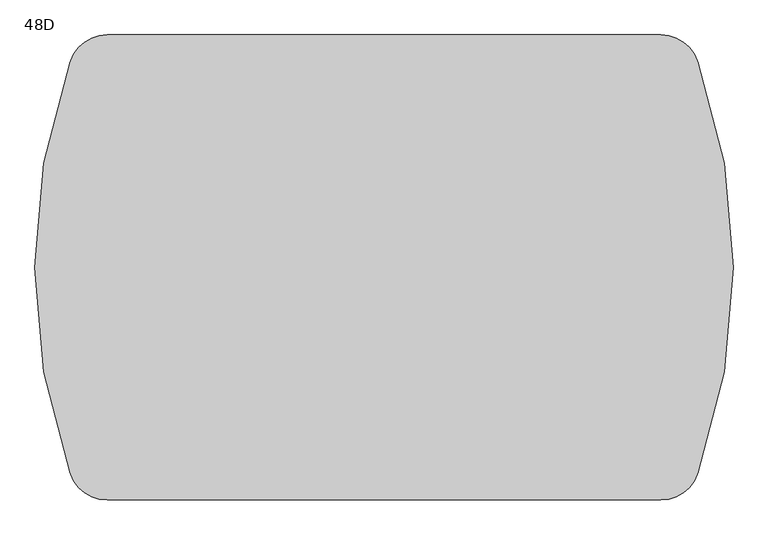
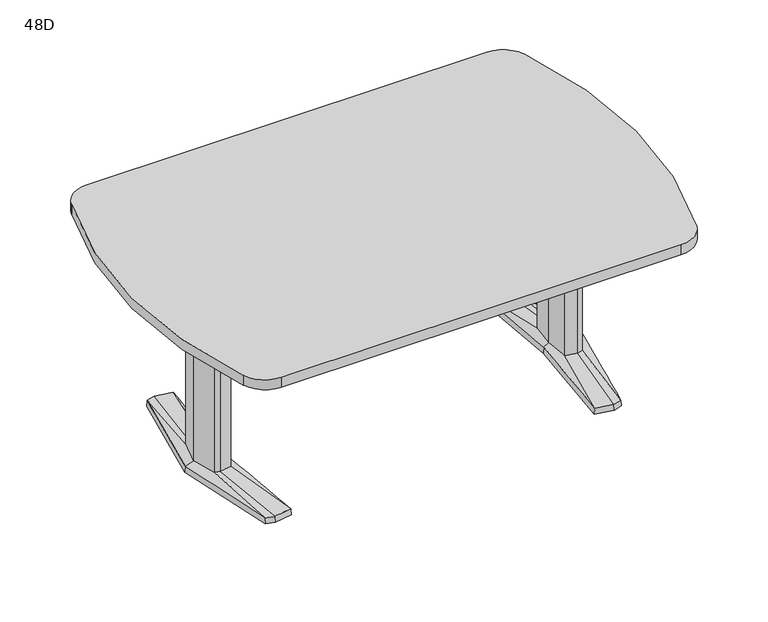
"""IFC4 building model written with IfcOpenShell, lengths in millimetres: furniture geometry, Coalesse_AM_Table_Conference_ETable2_SoftRadiused_72in_AluminiumBase : 48D."""

from ifc_helpers import new_model, si_unit, point, frame, frame_2d, origin, place, context, project, spatial, polyline, circle_curve, trimmed, segment, composite_curve, outline, extrude, source, transform, mapped, element, save
from ifc_brep_helpers import plane_surface, spline_surface, advanced_brep


def furniture_48d_aa6851dc(model_context):
    return source(origin(), model_context, "Body", "SolidModel", [
        advanced_brep(
        [(614.8503471, -379.3768856, 25.4), (644.5756636, -371.5332654, 25.4), (668.2327243, -89.293702, 36.5125), (648.9795254, -94.605478, 36.5125), (606.0521001, -87.0529327, 36.5125), (551.7612538, -368.5071562, 25.4), (597.9364207, 0.0, 36.5125), (579.8389754, 0.3970149, 25.4), (606.0521001, 87.0529327, 36.5125), (551.7615002, 368.5172593, 25.4), (648.9795254, 94.605478, 36.5125), (614.8502233, 379.3769183, 25.4), (668.2327243, 89.293702, 36.5125), (644.7535458, 371.4863276, 25.4), (692.1595251, 0.0, 36.5125), (721.4851663, 0.0003516, 25.4), (578.2468742, 0.3968871, 3.175), (550.06875, 369.8367279, 3.175), (614.9213004, 381.0, 3.175), (646.1093245, 372.7704151, 3.175), (723.10625, 0.0, 3.175), (645.9309817, -372.8174744, 3.175), (614.9213004, -381.0, 3.175), (550.06875, -369.8264415, 3.175), (649.5979264, 107.6121478, 3.175), (594.3065451, 97.8843184, 3.175), (585.1810887, 0.0, 3.175), (594.3065451, -97.8843184, 3.175), (649.5979264, -107.6121478, 3.175), (678.6183473, -99.6056872, 3.175), (705.3083085, 0.0, 3.175), (678.6183473, 99.6056872, 3.175), (613.4286812, 346.9152841, 3.175), (557.7811371, 337.3364985, 3.175), (560.1889918, 324.8641942, 3.175), (612.8600644, 333.9306305, 3.175), (648.6725609, 324.4807859, 3.175), (647.5544526, 337.9105158, 3.175), (613.4286812, -346.9152841, 3.175), (647.5544526, -337.9105158, 3.175), (648.6725609, -324.4807859, 3.175), (612.8600644, -333.9306305, 3.175), (560.1889918, -324.8641942, 3.175), (557.7811371, -337.3364985, 3.175), (649.5979264, 107.6121478, 0.0), (678.6183473, 99.6056872, 0.0), (705.3083085, 0.0, 0.0), (678.6183473, -99.6056872, 0.0), (649.5979264, -107.6121478, 0.0), (594.3065451, -97.8843184, 0.0), (585.1810887, 0.0, 0.0), (594.3065451, 97.8843184, 0.0), (613.4286812, 346.9152841, 0.0), (647.5544526, 337.9105158, 0.0), (648.6725609, 324.4807859, 0.0), (612.8600644, 333.9306305, 0.0), (560.1889918, 324.8641942, 0.0), (557.7811371, 337.3364985, 0.0), (613.4286812, -346.9152841, 0.0), (557.7811371, -337.3364985, 0.0), (560.1889918, -324.8641942, 0.0), (612.8600644, -333.9306305, 0.0), (648.6725609, -324.4807859, 0.0), (647.5544526, -337.9105158, 0.0), (668.2327243, 89.293702, 698.5), (648.9795254, 94.605478, 698.5), (606.0521001, 87.0529327, 698.5), (597.9364207, 0.0, 698.5), (606.0521001, -87.0529327, 698.5), (648.9795254, -94.605478, 698.5), (668.2327243, -89.293702, 698.5), (692.1595251, 0.0, 698.5)],
        [
            (0, 1),
            (1, 2),
            (2, 3),
            (3, 0),
            (3, 4),
            (4, 5),
            (5, 0),
            (4, 6),
            (6, 7),
            (7, 5),
            (6, 8),
            (8, 9),
            (9, 7),
            (8, 10),
            (10, 11),
            (11, 9),
            (10, 12),
            (12, 13),
            (13, 11),
            (12, 14),
            (14, 15),
            (15, 13),
            (1, 15),
            (14, 2),
            (16, 17),
            (17, 18),
            (18, 19),
            (19, 20),
            (20, 21),
            (21, 22),
            (22, 23),
            (23, 16),
            (24, 25),
            (25, 26),
            (26, 27),
            (27, 28),
            (28, 29),
            (29, 30),
            (30, 31),
            (31, 24),
            (32, 33),
            (33, 34),
            (34, 35),
            (35, 36),
            (36, 37),
            (37, 32),
            (38, 39),
            (39, 40),
            (40, 41),
            (41, 42),
            (42, 43),
            (43, 38),
            (16, 7),
            (9, 17),
            (11, 18),
            (13, 19),
            (15, 20),
            (1, 21),
            (0, 22),
            (5, 23),
            (44, 45),
            (45, 46),
            (46, 47),
            (47, 48),
            (48, 49),
            (49, 50),
            (50, 51),
            (51, 44),
            (52, 53),
            (53, 54),
            (54, 55),
            (55, 56),
            (56, 57),
            (57, 52),
            (58, 59),
            (59, 60),
            (60, 61),
            (61, 62),
            (62, 63),
            (63, 58),
            (44, 24),
            (31, 45),
            (30, 46),
            (29, 47),
            (28, 48),
            (27, 49),
            (26, 50),
            (25, 51),
            (52, 32),
            (37, 53),
            (36, 54),
            (35, 55),
            (34, 56),
            (33, 57),
            (58, 38),
            (43, 59),
            (42, 60),
            (41, 61),
            (40, 62),
            (39, 63),
            (64, 65),
            (65, 66),
            (66, 67),
            (67, 68),
            (68, 69),
            (69, 70),
            (70, 71),
            (71, 64),
            (71, 14),
            (12, 64),
            (70, 2),
            (69, 3),
            (68, 4),
            (67, 6),
            (66, 8),
            (65, 10),
        ],
        [
            spline_surface(1, 1, [[(644.5756636, -371.5332654, 25.4), (614.8503471, -379.3768856, 25.4)], [(668.2327243, -89.293702, 36.5125), (648.9795254, -94.605478, 36.5125)]], [2, 2], [2, 2], [0.0, 1.0], [0.0, 1.0]),
            spline_surface(1, 1, [[(614.8503471, -379.3768856, 25.4), (551.7612538, -368.5071562, 25.4)], [(648.9795254, -94.605478, 36.5125), (606.0521001, -87.0529327, 36.5125)]], [2, 2], [2, 2], [0.0, 1.0], [0.0, 1.0]),
            spline_surface(1, 1, [[(551.7612538, -368.5071562, 25.4), (579.8389754, 0.3970149, 25.4)], [(606.0521001, -87.0529327, 36.5125), (597.9364207, 0.0, 36.5125)]], [2, 2], [2, 2], [0.0, 1.0], [0.0, 1.0]),
            spline_surface(1, 1, [[(579.8389754, 0.3970149, 25.4), (551.7615002, 368.5172593, 25.4)], [(597.9364207, 0.0, 36.5125), (606.0521001, 87.0529327, 36.5125)]], [2, 2], [2, 2], [0.0, 1.0], [0.0, 1.0]),
            spline_surface(1, 1, [[(551.7615002, 368.5172593, 25.4), (614.8502233, 379.3769183, 25.4)], [(606.0521001, 87.0529327, 36.5125), (648.9795254, 94.605478, 36.5125)]], [2, 2], [2, 2], [0.0, 1.0], [0.0, 1.0]),
            spline_surface(1, 1, [[(614.8502233, 379.3769183, 25.4), (644.7535458, 371.4863276, 25.4)], [(648.9795254, 94.605478, 36.5125), (668.2327243, 89.293702, 36.5125)]], [2, 2], [2, 2], [0.0, 1.0], [0.0, 1.0]),
            spline_surface(1, 1, [[(644.7535458, 371.4863276, 25.4), (721.4851663, 0.0003516, 25.4)], [(668.2327243, 89.293702, 36.5125), (692.1595251, 0.0, 36.5125)]], [2, 2], [2, 2], [0.0, 1.0], [0.0, 1.0]),
            spline_surface(1, 1, [[(721.4851663, 0.0003516, 25.4), (644.5756636, -371.5332654, 25.4)], [(692.1595251, 0.0, 36.5125), (668.2327243, -89.293702, 36.5125)]], [2, 2], [2, 2], [0.0, 1.0], [0.0, 1.0]),
            plane_surface(frame((615.4216914, 0.0450143, 3.175), z_axis=(0.0, 0.0, -1.0), x_axis=(-0.9669048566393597, -0.2551372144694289, 0.0))),
            plane_surface(frame((564.1578121, 185.1168075, 3.175), z_axis=(-0.9945699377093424, -0.07585840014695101, 0.0712470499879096), x_axis=(-0.07605167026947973, 0.9971038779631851, 0.0))),
            plane_surface(frame((582.4950252, 375.418364, 3.175), z_axis=(-0.1692071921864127, 0.9830019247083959, 0.07124704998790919), x_axis=(0.985506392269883, 0.16963829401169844, 0.0))),
            plane_surface(frame((630.5153124, 376.8852076, 3.175), z_axis=(0.2544888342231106, 0.9644476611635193, 0.07124704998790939), x_axis=(0.9669048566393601, -0.25513721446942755, 0.0))),
            plane_surface(frame((684.6077872, 186.3852076, 3.175), z_axis=(0.9768383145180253, 0.2017690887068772, 0.07124704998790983), x_axis=(0.20228315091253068, -0.9793270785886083, 0.0))),
            plane_surface(frame((684.5186158, -186.4087372, 3.175), z_axis=(0.9767507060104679, -0.20219276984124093, 0.07124704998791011), x_axis=(-0.2027079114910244, -0.9792392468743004, 0.0))),
            plane_surface(frame((630.426141, -376.9087372, 3.175), z_axis=(0.2544888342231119, -0.9644476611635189, 0.0712470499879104), x_axis=(-0.9669048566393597, -0.2551372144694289, 0.0))),
            plane_surface(frame((582.4950252, -375.4132207, 3.175), z_axis=(-0.16935861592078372, -0.982975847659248, 0.07124704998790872), x_axis=(-0.9854802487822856, 0.16979010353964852, 0.0))),
            plane_surface(frame((564.1578121, -184.7147772, 3.175), z_axis=(-0.9945820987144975, 0.07569878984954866, 0.07124704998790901), x_axis=(0.07589165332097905, 0.9971160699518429, 0.0))),
            plane_surface(frame((652.3571479, 106.8509046, 0.0), z_axis=(0.0, 0.0, -1.0000000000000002), x_axis=(-0.9639855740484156, 0.26595453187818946, 0.0))),
            plane_surface(frame((649.5979264, 107.6121478, 3.175), z_axis=(0.26595453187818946, 0.9639855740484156, 0.0), x_axis=(0.0, 0.0, -1.0))),
            plane_surface(frame((678.6183473, 99.6056872, 3.175), z_axis=(0.9659241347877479, 0.2588253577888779, 0.0), x_axis=(0.0, 0.0, -1.0))),
            plane_surface(frame((705.3083085, 0.0, 3.175), z_axis=(0.9659241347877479, -0.2588253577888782, 0.0), x_axis=(0.0, 0.0, -1.0))),
            plane_surface(frame((678.6183473, -99.6056872, 3.175), z_axis=(0.26595453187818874, -0.9639855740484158, 0.0), x_axis=(0.0, 0.0, -1.0))),
            plane_surface(frame((649.5979264, -107.6121478, 3.175), z_axis=(-0.17327617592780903, -0.9848732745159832, 0.0), x_axis=(0.0, 0.0, -1.0))),
            plane_surface(frame((594.3065451, -97.8843184, 3.175), z_axis=(-0.9956824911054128, -0.0928244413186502, 0.0), x_axis=(0.0, 0.0, -1.0))),
            plane_surface(frame((585.1810887, 0.0, 3.175), z_axis=(-0.9956824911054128, 0.09282444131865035, 0.0), x_axis=(0.0, 0.0, -1.0))),
            plane_surface(frame((594.3065451, 97.8843184, 3.175), z_axis=(-0.17327617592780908, 0.984873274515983, 0.0), x_axis=(0.0, 0.0, -1.0))),
            plane_surface(frame((613.4286812, 346.9152841, 3.175), z_axis=(0.25513721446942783, 0.9669048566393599, 0.0), x_axis=(0.0, 0.0, -1.0))),
            plane_surface(frame((647.5544526, 337.9105158, 3.175), z_axis=(0.9965521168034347, 0.0829691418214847, 0.0), x_axis=(0.0, 0.0, -1.0))),
            plane_surface(frame((648.6725609, 324.4807859, 3.175), z_axis=(-0.25513721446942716, -0.9669048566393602, 0.0), x_axis=(0.0, 0.0, -1.0))),
            plane_surface(frame((612.8600644, 333.9306305, 3.175), z_axis=(0.16963829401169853, -0.985506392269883, 0.0), x_axis=(0.0, 0.0, -1.0))),
            plane_surface(frame((560.1889918, 324.8641942, 3.175), z_axis=(-0.9818699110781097, -0.18955600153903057, 0.0), x_axis=(0.0, 0.0, -1.0))),
            plane_surface(frame((557.7811371, 337.3364985, 3.175), z_axis=(-0.16963829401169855, 0.9855063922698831, 0.0), x_axis=(0.0, 0.0, -1.0))),
            plane_surface(frame((613.4286812, -346.9152841, 3.175), z_axis=(-0.1696382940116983, -0.9855063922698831, 0.0), x_axis=(0.0, 0.0, -1.0))),
            plane_surface(frame((557.7811371, -337.3364985, 3.175), z_axis=(-0.9818699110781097, 0.18955600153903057, 0.0), x_axis=(0.0, 0.0, -1.0))),
            plane_surface(frame((560.1889918, -324.8641942, 3.175), z_axis=(0.16963829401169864, 0.985506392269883, 0.0), x_axis=(0.0, 0.0, -1.0))),
            plane_surface(frame((612.8600644, -333.9306305, 3.175), z_axis=(-0.2551372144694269, 0.9669048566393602, 0.0), x_axis=(0.0, 0.0, -1.0))),
            plane_surface(frame((648.6725609, -324.4807859, 3.175), z_axis=(0.9965521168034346, -0.0829691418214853, 0.0), x_axis=(0.0, 0.0, -1.0))),
            plane_surface(frame((647.5544526, -337.9105158, 3.175), z_axis=(0.2551372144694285, -0.9669048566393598, 0.0), x_axis=(0.0, 0.0, -1.0))),
            plane_surface(frame((692.1595251, 0.0, 698.5), z_axis=(0.0, 0.0, 1.0), x_axis=(0.25882535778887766, -0.965924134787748, 0.0))),
            plane_surface(frame((668.2327243, 89.293702, 698.5), z_axis=(0.965924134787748, 0.25882535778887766, 0.0), x_axis=(0.0, 0.0, -1.0))),
            plane_surface(frame((692.1595251, 0.0, 698.5), z_axis=(0.965924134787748, -0.2588253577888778, 0.0), x_axis=(0.0, 0.0, -1.0))),
            plane_surface(frame((668.2327243, -89.293702, 698.5), z_axis=(0.2659545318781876, -0.963985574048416, 0.0), x_axis=(0.0, 0.0, -1.0))),
            plane_surface(frame((648.9795254, -94.605478, 698.5), z_axis=(-0.1732761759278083, -0.9848732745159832, 0.0), x_axis=(0.0, 0.0, -1.0))),
            plane_surface(frame((606.0521001, -87.0529327, 698.5), z_axis=(-0.9956824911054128, -0.0928244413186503, 0.0), x_axis=(0.0, 0.0, -1.0))),
            plane_surface(frame((597.9364207, 0.0, 698.5), z_axis=(-0.9956824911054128, 0.09282444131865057, 0.0), x_axis=(0.0, 0.0, -1.0))),
            plane_surface(frame((606.0521001, 87.0529327, 698.5), z_axis=(-0.17327617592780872, 0.9848732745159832, 0.0), x_axis=(0.0, 0.0, -1.0))),
            plane_surface(frame((648.9795254, 94.605478, 698.5), z_axis=(0.26595453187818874, 0.9639855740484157, 0.0), x_axis=(0.0, 0.0, -1.0))),
        ],
        [
            (0, [[1, 2, 3, 4]]),
            (1, [[5, 6, 7, -4]]),
            (2, [[8, 9, 10, -6]]),
            (3, [[11, 12, 13, -9]]),
            (4, [[14, 15, 16, -12]]),
            (5, [[17, 18, 19, -15]]),
            (6, [[20, 21, 22, -18]]),
            (7, [[23, -21, 24, -2]]),
            (8, [[25, 26, 27, 28, 29, 30, 31, 32], [33, 34, 35, 36, 37, 38, 39, 40], [41, 42, 43, 44, 45, 46], [47, 48, 49, 50, 51, 52]]),
            (9, [[53, -13, 54, -25]]),
            (10, [[-54, -16, 55, -26]]),
            (11, [[-55, -19, 56, -27]]),
            (12, [[-56, -22, 57, -28]]),
            (13, [[-57, -23, 58, -29]]),
            (14, [[-58, -1, 59, -30]]),
            (15, [[-59, -7, 60, -31]]),
            (16, [[-60, -10, -53, -32]]),
            (17, [[61, 62, 63, 64, 65, 66, 67, 68]]),
            (17, [[69, 70, 71, 72, 73, 74]]),
            (17, [[75, 76, 77, 78, 79, 80]]),
            (18, [[81, -40, 82, -61]]),
            (19, [[-82, -39, 83, -62]]),
            (20, [[-83, -38, 84, -63]]),
            (21, [[-84, -37, 85, -64]]),
            (22, [[-85, -36, 86, -65]]),
            (23, [[-86, -35, 87, -66]]),
            (24, [[-87, -34, 88, -67]]),
            (25, [[-88, -33, -81, -68]]),
            (26, [[89, -46, 90, -69]]),
            (27, [[-90, -45, 91, -70]]),
            (28, [[-91, -44, 92, -71]]),
            (29, [[-92, -43, 93, -72]]),
            (30, [[-93, -42, 94, -73]]),
            (31, [[-94, -41, -89, -74]]),
            (32, [[95, -52, 96, -75]]),
            (33, [[-96, -51, 97, -76]]),
            (34, [[-97, -50, 98, -77]]),
            (35, [[-98, -49, 99, -78]]),
            (36, [[-99, -48, 100, -79]]),
            (37, [[-100, -47, -95, -80]]),
            (38, [[101, 102, 103, 104, 105, 106, 107, 108]]),
            (39, [[109, -20, 110, -108]]),
            (40, [[111, -24, -109, -107]]),
            (41, [[112, -3, -111, -106]]),
            (42, [[113, -5, -112, -105]]),
            (43, [[114, -8, -113, -104]]),
            (44, [[115, -11, -114, -103]]),
            (45, [[116, -14, -115, -102]]),
            (46, [[-110, -17, -116, -101]]),
        ],
    ),
        advanced_brep(
        [(-614.8503471, -379.3768856, 25.4), (-648.9795254, -94.605478, 36.5125), (-668.2327243, -89.293702, 36.5125), (-644.5756636, -371.5332654, 25.4), (-551.7612538, -368.5071562, 25.4), (-606.0521001, -87.0529327, 36.5125), (-579.8389754, 0.3970149, 25.4), (-597.9364207, 0.0, 36.5125), (-551.7615002, 368.5172593, 25.4), (-606.0521001, 87.0529327, 36.5125), (-614.8502233, 379.3769183, 25.4), (-648.9795254, 94.605478, 36.5125), (-644.7535458, 371.4863276, 25.4), (-668.2327243, 89.293702, 36.5125), (-721.4851663, 0.0003516, 25.4), (-692.1595251, 0.0, 36.5125), (-578.2468742, 0.3968871, 3.175), (-550.06875, -369.8264415, 3.175), (-614.9213004, -381.0, 3.175), (-645.9309817, -372.8174744, 3.175), (-723.10625, 0.0, 3.175), (-646.1093245, 372.7704151, 3.175), (-614.9213004, 381.0, 3.175), (-550.06875, 369.8367279, 3.175), (-649.5979264, 107.6121478, 3.175), (-678.6183473, 99.6056872, 3.175), (-705.3083085, 0.0, 3.175), (-678.6183473, -99.6056872, 3.175), (-649.5979264, -107.6121478, 3.175), (-594.3065451, -97.8843184, 3.175), (-585.1810887, 0.0, 3.175), (-594.3065451, 97.8843184, 3.175), (-613.4286812, 346.9152841, 3.175), (-647.5544526, 337.9105158, 3.175), (-648.6725609, 324.4807859, 3.175), (-612.8600644, 333.9306305, 3.175), (-560.1889918, 324.8641942, 3.175), (-557.7811371, 337.3364985, 3.175), (-613.4286812, -346.9152841, 3.175), (-557.7811371, -337.3364985, 3.175), (-560.1889918, -324.8641942, 3.175), (-612.8600644, -333.9306305, 3.175), (-648.6725609, -324.4807859, 3.175), (-647.5544526, -337.9105158, 3.175), (-649.5979264, 107.6121478, 0.0), (-594.3065451, 97.8843184, 0.0), (-585.1810887, 0.0, 0.0), (-594.3065451, -97.8843184, 0.0), (-649.5979264, -107.6121478, 0.0), (-678.6183473, -99.6056872, 0.0), (-705.3083085, 0.0, 0.0), (-678.6183473, 99.6056872, 0.0), (-613.4286812, 346.9152841, 0.0), (-557.7811371, 337.3364985, 0.0), (-560.1889918, 324.8641942, 0.0), (-612.8600644, 333.9306305, 0.0), (-648.6725609, 324.4807859, 0.0), (-647.5544526, 337.9105158, 0.0), (-613.4286812, -346.9152841, 0.0), (-647.5544526, -337.9105158, 0.0), (-648.6725609, -324.4807859, 0.0), (-612.8600644, -333.9306305, 0.0), (-560.1889918, -324.8641942, 0.0), (-557.7811371, -337.3364985, 0.0), (-668.2327243, 89.293702, 698.5), (-692.1595251, 0.0, 698.5), (-668.2327243, -89.293702, 698.5), (-648.9795254, -94.605478, 698.5), (-606.0521001, -87.0529327, 698.5), (-597.9364207, 0.0, 698.5), (-606.0521001, 87.0529327, 698.5), (-648.9795254, 94.605478, 698.5)],
        [
            (0, 1),
            (1, 2),
            (2, 3),
            (3, 0),
            (0, 4),
            (4, 5),
            (5, 1),
            (4, 6),
            (6, 7),
            (7, 5),
            (6, 8),
            (8, 9),
            (9, 7),
            (8, 10),
            (10, 11),
            (11, 9),
            (10, 12),
            (12, 13),
            (13, 11),
            (12, 14),
            (14, 15),
            (15, 13),
            (2, 15),
            (14, 3),
            (16, 17),
            (17, 18),
            (18, 19),
            (19, 20),
            (20, 21),
            (21, 22),
            (22, 23),
            (23, 16),
            (24, 25),
            (25, 26),
            (26, 27),
            (27, 28),
            (28, 29),
            (29, 30),
            (30, 31),
            (31, 24),
            (32, 33),
            (33, 34),
            (34, 35),
            (35, 36),
            (36, 37),
            (37, 32),
            (38, 39),
            (39, 40),
            (40, 41),
            (41, 42),
            (42, 43),
            (43, 38),
            (23, 8),
            (6, 16),
            (22, 10),
            (21, 12),
            (20, 14),
            (19, 3),
            (18, 0),
            (17, 4),
            (44, 45),
            (45, 46),
            (46, 47),
            (47, 48),
            (48, 49),
            (49, 50),
            (50, 51),
            (51, 44),
            (52, 53),
            (53, 54),
            (54, 55),
            (55, 56),
            (56, 57),
            (57, 52),
            (58, 59),
            (59, 60),
            (60, 61),
            (61, 62),
            (62, 63),
            (63, 58),
            (51, 25),
            (24, 44),
            (50, 26),
            (49, 27),
            (48, 28),
            (47, 29),
            (46, 30),
            (45, 31),
            (57, 33),
            (32, 52),
            (56, 34),
            (55, 35),
            (54, 36),
            (53, 37),
            (63, 39),
            (38, 58),
            (62, 40),
            (61, 41),
            (60, 42),
            (59, 43),
            (64, 65),
            (65, 66),
            (66, 67),
            (67, 68),
            (68, 69),
            (69, 70),
            (70, 71),
            (71, 64),
            (64, 13),
            (15, 65),
            (2, 66),
            (1, 67),
            (5, 68),
            (7, 69),
            (9, 70),
            (11, 71),
        ],
        [
            spline_surface(1, 1, [[(-644.5756636, -371.5332654, 25.4), (-668.2327243, -89.293702, 36.5125)], [(-614.8503471, -379.3768856, 25.4), (-648.9795254, -94.605478, 36.5125)]], [2, 2], [2, 2], [0.0, 1.0], [0.0, 1.0]),
            spline_surface(1, 1, [[(-614.8503471, -379.3768856, 25.4), (-648.9795254, -94.605478, 36.5125)], [(-551.7612538, -368.5071562, 25.4), (-606.0521001, -87.0529327, 36.5125)]], [2, 2], [2, 2], [0.0, 1.0], [0.0, 1.0]),
            spline_surface(1, 1, [[(-551.7612538, -368.5071562, 25.4), (-606.0521001, -87.0529327, 36.5125)], [(-579.8389754, 0.3970149, 25.4), (-597.9364207, 0.0, 36.5125)]], [2, 2], [2, 2], [0.0, 1.0], [0.0, 1.0]),
            spline_surface(1, 1, [[(-579.8389754, 0.3970149, 25.4), (-597.9364207, 0.0, 36.5125)], [(-551.7615002, 368.5172593, 25.4), (-606.0521001, 87.0529327, 36.5125)]], [2, 2], [2, 2], [0.0, 1.0], [0.0, 1.0]),
            spline_surface(1, 1, [[(-551.7615002, 368.5172593, 25.4), (-606.0521001, 87.0529327, 36.5125)], [(-614.8502233, 379.3769183, 25.4), (-648.9795254, 94.605478, 36.5125)]], [2, 2], [2, 2], [0.0, 1.0], [0.0, 1.0]),
            spline_surface(1, 1, [[(-614.8502233, 379.3769183, 25.4), (-648.9795254, 94.605478, 36.5125)], [(-644.7535458, 371.4863276, 25.4), (-668.2327243, 89.293702, 36.5125)]], [2, 2], [2, 2], [0.0, 1.0], [0.0, 1.0]),
            spline_surface(1, 1, [[(-644.7535458, 371.4863276, 25.4), (-668.2327243, 89.293702, 36.5125)], [(-721.4851663, 0.0003516, 25.4), (-692.1595251, 0.0, 36.5125)]], [2, 2], [2, 2], [0.0, 1.0], [0.0, 1.0]),
            spline_surface(1, 1, [[(-721.4851663, 0.0003516, 25.4), (-692.1595251, 0.0, 36.5125)], [(-644.5756636, -371.5332654, 25.4), (-668.2327243, -89.293702, 36.5125)]], [2, 2], [2, 2], [0.0, 1.0], [0.0, 1.0]),
            plane_surface(frame((-615.4216914, 0.0450143, 3.175), z_axis=(0.0, 0.0, -1.0), x_axis=(0.9669048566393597, -0.2551372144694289, 0.0))),
            plane_surface(frame((-564.1578121, 185.1168075, 3.175), z_axis=(0.9945699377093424, -0.07585840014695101, 0.0712470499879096), x_axis=(0.07605167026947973, 0.9971038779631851, 0.0))),
            plane_surface(frame((-582.4950252, 375.418364, 3.175), z_axis=(0.1692071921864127, 0.9830019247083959, 0.07124704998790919), x_axis=(-0.985506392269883, 0.16963829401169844, 0.0))),
            plane_surface(frame((-630.5153124, 376.8852076, 3.175), z_axis=(-0.2544888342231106, 0.9644476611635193, 0.07124704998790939), x_axis=(-0.9669048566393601, -0.25513721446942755, 0.0))),
            plane_surface(frame((-684.6077872, 186.3852076, 3.175), z_axis=(-0.9768383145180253, 0.2017690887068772, 0.07124704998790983), x_axis=(-0.20228315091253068, -0.9793270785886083, 0.0))),
            plane_surface(frame((-684.5186158, -186.4087372, 3.175), z_axis=(-0.9767507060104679, -0.20219276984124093, 0.07124704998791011), x_axis=(0.2027079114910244, -0.9792392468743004, 0.0))),
            plane_surface(frame((-630.426141, -376.9087372, 3.175), z_axis=(-0.2544888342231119, -0.9644476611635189, 0.0712470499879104), x_axis=(0.9669048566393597, -0.2551372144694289, 0.0))),
            plane_surface(frame((-582.4950252, -375.4132207, 3.175), z_axis=(0.16935861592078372, -0.982975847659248, 0.07124704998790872), x_axis=(0.9854802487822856, 0.16979010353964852, 0.0))),
            plane_surface(frame((-564.1578121, -184.7147772, 3.175), z_axis=(0.9945820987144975, 0.07569878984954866, 0.07124704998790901), x_axis=(-0.07589165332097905, 0.9971160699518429, 0.0))),
            plane_surface(frame((-652.3571479, 106.8509046, 0.0), z_axis=(0.0, 0.0, -1.0000000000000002), x_axis=(0.9639855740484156, 0.26595453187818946, 0.0))),
            plane_surface(frame((-649.5979264, 107.6121478, 3.175), z_axis=(-0.26595453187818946, 0.9639855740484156, 0.0), x_axis=(0.0, 0.0, -1.0))),
            plane_surface(frame((-678.6183473, 99.6056872, 3.175), z_axis=(-0.9659241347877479, 0.2588253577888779, 0.0), x_axis=(0.0, 0.0, -1.0))),
            plane_surface(frame((-705.3083085, 0.0, 3.175), z_axis=(-0.9659241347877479, -0.2588253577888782, 0.0), x_axis=(0.0, 0.0, -1.0))),
            plane_surface(frame((-678.6183473, -99.6056872, 3.175), z_axis=(-0.26595453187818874, -0.9639855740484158, 0.0), x_axis=(0.0, 0.0, -1.0))),
            plane_surface(frame((-649.5979264, -107.6121478, 3.175), z_axis=(0.17327617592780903, -0.9848732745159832, 0.0), x_axis=(0.0, 0.0, -1.0))),
            plane_surface(frame((-594.3065451, -97.8843184, 3.175), z_axis=(0.9956824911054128, -0.0928244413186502, 0.0), x_axis=(0.0, 0.0, -1.0))),
            plane_surface(frame((-585.1810887, 0.0, 3.175), z_axis=(0.9956824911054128, 0.09282444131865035, 0.0), x_axis=(0.0, 0.0, -1.0))),
            plane_surface(frame((-594.3065451, 97.8843184, 3.175), z_axis=(0.17327617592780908, 0.984873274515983, 0.0), x_axis=(0.0, 0.0, -1.0))),
            plane_surface(frame((-613.4286812, 346.9152841, 3.175), z_axis=(-0.25513721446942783, 0.9669048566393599, 0.0), x_axis=(0.0, 0.0, -1.0))),
            plane_surface(frame((-647.5544526, 337.9105158, 3.175), z_axis=(-0.9965521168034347, 0.0829691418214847, 0.0), x_axis=(0.0, 0.0, -1.0))),
            plane_surface(frame((-648.6725609, 324.4807859, 3.175), z_axis=(0.25513721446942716, -0.9669048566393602, 0.0), x_axis=(0.0, 0.0, -1.0))),
            plane_surface(frame((-612.8600644, 333.9306305, 3.175), z_axis=(-0.16963829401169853, -0.985506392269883, 0.0), x_axis=(0.0, 0.0, -1.0))),
            plane_surface(frame((-560.1889918, 324.8641942, 3.175), z_axis=(0.9818699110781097, -0.18955600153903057, 0.0), x_axis=(0.0, 0.0, -1.0))),
            plane_surface(frame((-557.7811371, 337.3364985, 3.175), z_axis=(0.16963829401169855, 0.9855063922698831, 0.0), x_axis=(0.0, 0.0, -1.0))),
            plane_surface(frame((-613.4286812, -346.9152841, 3.175), z_axis=(0.1696382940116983, -0.9855063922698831, 0.0), x_axis=(0.0, 0.0, -1.0))),
            plane_surface(frame((-557.7811371, -337.3364985, 3.175), z_axis=(0.9818699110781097, 0.18955600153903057, 0.0), x_axis=(0.0, 0.0, -1.0))),
            plane_surface(frame((-560.1889918, -324.8641942, 3.175), z_axis=(-0.16963829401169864, 0.985506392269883, 0.0), x_axis=(0.0, 0.0, -1.0))),
            plane_surface(frame((-612.8600644, -333.9306305, 3.175), z_axis=(0.2551372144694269, 0.9669048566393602, 0.0), x_axis=(0.0, 0.0, -1.0))),
            plane_surface(frame((-648.6725609, -324.4807859, 3.175), z_axis=(-0.9965521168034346, -0.0829691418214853, 0.0), x_axis=(0.0, 0.0, -1.0))),
            plane_surface(frame((-647.5544526, -337.9105158, 3.175), z_axis=(-0.2551372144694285, -0.9669048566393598, 0.0), x_axis=(0.0, 0.0, -1.0))),
            plane_surface(frame((-692.1595251, 0.0, 698.5), z_axis=(0.0, 0.0, 1.0), x_axis=(-0.25882535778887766, -0.965924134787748, 0.0))),
            plane_surface(frame((-668.2327243, 89.293702, 698.5), z_axis=(-0.965924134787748, 0.25882535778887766, 0.0), x_axis=(0.0, 0.0, -1.0))),
            plane_surface(frame((-692.1595251, 0.0, 698.5), z_axis=(-0.965924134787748, -0.2588253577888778, 0.0), x_axis=(0.0, 0.0, -1.0))),
            plane_surface(frame((-668.2327243, -89.293702, 698.5), z_axis=(-0.2659545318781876, -0.963985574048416, 0.0), x_axis=(0.0, 0.0, -1.0))),
            plane_surface(frame((-648.9795254, -94.605478, 698.5), z_axis=(0.1732761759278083, -0.9848732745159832, 0.0), x_axis=(0.0, 0.0, -1.0))),
            plane_surface(frame((-606.0521001, -87.0529327, 698.5), z_axis=(0.9956824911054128, -0.0928244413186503, 0.0), x_axis=(0.0, 0.0, -1.0))),
            plane_surface(frame((-597.9364207, 0.0, 698.5), z_axis=(0.9956824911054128, 0.09282444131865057, 0.0), x_axis=(0.0, 0.0, -1.0))),
            plane_surface(frame((-606.0521001, 87.0529327, 698.5), z_axis=(0.17327617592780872, 0.9848732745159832, 0.0), x_axis=(0.0, 0.0, -1.0))),
            plane_surface(frame((-648.9795254, 94.605478, 698.5), z_axis=(-0.26595453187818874, 0.9639855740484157, 0.0), x_axis=(0.0, 0.0, -1.0))),
        ],
        [
            (0, [[1, 2, 3, 4]]),
            (1, [[-1, 5, 6, 7]]),
            (2, [[-6, 8, 9, 10]]),
            (3, [[-9, 11, 12, 13]]),
            (4, [[-12, 14, 15, 16]]),
            (5, [[-15, 17, 18, 19]]),
            (6, [[-18, 20, 21, 22]]),
            (7, [[-3, 23, -21, 24]]),
            (8, [[25, 26, 27, 28, 29, 30, 31, 32], [33, 34, 35, 36, 37, 38, 39, 40], [41, 42, 43, 44, 45, 46], [47, 48, 49, 50, 51, 52]]),
            (9, [[-32, 53, -11, 54]]),
            (10, [[-31, 55, -14, -53]]),
            (11, [[-30, 56, -17, -55]]),
            (12, [[-29, 57, -20, -56]]),
            (13, [[-28, 58, -24, -57]]),
            (14, [[-27, 59, -4, -58]]),
            (15, [[-26, 60, -5, -59]]),
            (16, [[-25, -54, -8, -60]]),
            (17, [[61, 62, 63, 64, 65, 66, 67, 68]]),
            (17, [[69, 70, 71, 72, 73, 74]]),
            (17, [[75, 76, 77, 78, 79, 80]]),
            (18, [[-68, 81, -33, 82]]),
            (19, [[-67, 83, -34, -81]]),
            (20, [[-66, 84, -35, -83]]),
            (21, [[-65, 85, -36, -84]]),
            (22, [[-64, 86, -37, -85]]),
            (23, [[-63, 87, -38, -86]]),
            (24, [[-62, 88, -39, -87]]),
            (25, [[-61, -82, -40, -88]]),
            (26, [[-74, 89, -41, 90]]),
            (27, [[-73, 91, -42, -89]]),
            (28, [[-72, 92, -43, -91]]),
            (29, [[-71, 93, -44, -92]]),
            (30, [[-70, 94, -45, -93]]),
            (31, [[-69, -90, -46, -94]]),
            (32, [[-80, 95, -47, 96]]),
            (33, [[-79, 97, -48, -95]]),
            (34, [[-78, 98, -49, -97]]),
            (35, [[-77, 99, -50, -98]]),
            (36, [[-76, 100, -51, -99]]),
            (37, [[-75, -96, -52, -100]]),
            (38, [[101, 102, 103, 104, 105, 106, 107, 108]]),
            (39, [[-101, 109, -22, 110]]),
            (40, [[-102, -110, -23, 111]]),
            (41, [[-103, -111, -2, 112]]),
            (42, [[-104, -112, -7, 113]]),
            (43, [[-105, -113, -10, 114]]),
            (44, [[-106, -114, -13, 115]]),
            (45, [[-107, -115, -16, 116]]),
            (46, [[-108, -116, -19, -109]]),
        ],
    ),
        extrude(outline(polyline([(96.8375, 698.5), (103.1875, 698.5), (103.1875, 476.25), (-103.1875, 476.25), (-103.1875, 698.5), (-96.8375, 698.5), (-96.8375, 482.6), (96.8375, 482.6), (96.8375, 698.5)])), frame((-597.9364207, 0.0, 0.0), z_axis=(1.0, 0.0, 0.0), x_axis=(0.0, 1.0, 0.0)), (0.0, 0.0, 1.0), 1195.8728415),
        extrude(outline(composite_curve([segment(polyline([(-821.0457112, -541.8652296), (-821.8015465, -539.7273037)]), True, "CONTINUOUS"), segment(trimmed(circle_curve(frame_2d((704.85, 5.18e-05)), 1619.25), [point((-821.8015465, -539.7273037))], [point((-821.7956256, 539.7441544))], False, "CARTESIAN"), True, "CONTINUOUS"), segment(polyline([(-821.7956256, 539.7441544), (-821.0453442, 541.8662966)]), True, "CONTINUOUS"), segment(trimmed(circle_curve(frame_2d((-725.2558148, 508.0)), 101.6), [point((-821.0453442, 541.8662966))], [point((-725.2558148, 609.6))], False, "CARTESIAN"), True, "CONTINUOUS"), segment(polyline([(-725.2558148, 609.6), (725.2557872, 609.6)]), True, "CONTINUOUS"), segment(trimmed(circle_curve(frame_2d((725.2557872, 507.9999756)), 101.6000244), [point((725.2557872, 609.6))], [point((821.0457112, 541.8652296))], False, "CARTESIAN"), True, "CONTINUOUS"), segment(polyline([(821.0457112, 541.8652296), (821.8015465, 539.7273037)]), True, "CONTINUOUS"), segment(trimmed(circle_curve(frame_2d((-704.85, -5.18e-05)), 1619.25), [point((821.8015465, 539.7273037))], [point((821.7956256, -539.7441544))], False, "CARTESIAN"), True, "CONTINUOUS"), segment(polyline([(821.7956256, -539.7441544), (821.0453442, -541.8662966)]), True, "CONTINUOUS"), segment(trimmed(circle_curve(frame_2d((725.2558148, -508.0)), 101.6), [point((821.0453442, -541.8662966))], [point((725.2558148, -609.6))], False, "CARTESIAN"), True, "CONTINUOUS"), segment(polyline([(725.2558148, -609.6), (-725.2557872, -609.6)]), True, "CONTINUOUS"), segment(trimmed(circle_curve(frame_2d((-725.2557872, -507.9999756)), 101.6000244), [point((-725.2557872, -609.6))], [point((-821.0457112, -541.8652296))], False, "CARTESIAN"), True, "CONTINUOUS")], self_intersect=False)), frame((0.0, 0.0, 698.5), z_axis=(0.0, 0.0, 1.0), x_axis=(1.0, 0.0, 0.0)), (0.0, 0.0, 1.0), 38.1),
    ])


if __name__ == "__main__":
    model = new_model("IFC4")
    model_context = context("Model", 3, world=origin())
    ifc_project = project(units=[si_unit("LENGTHUNIT", "METRE", prefix="MILLI")], contexts=[model_context])
    site = spatial("IfcSite", under=ifc_project)
    building = spatial("IfcBuilding", under=site)
    placement = place(None, origin())
    furniture_48d_shape = furniture_48d_aa6851dc(model_context)
    element("IfcFurniture", 1, ObjectType="Coalesse_AM_Table_Conference_ETable2_SoftRadiused_72in_AluminiumBase : 48D", at=placement, inside=building, context=model_context, shape_type="MappedRepresentation", body=[
        mapped(furniture_48d_shape, transform((0.0, 0.0, 0.0), x_axis=(1.0, 0.0, 0.0), y_axis=(0.0, 1.0, 0.0), z_axis=(0.0, 0.0, 1.0))),
    ])
    save(model, "model.ifc")
